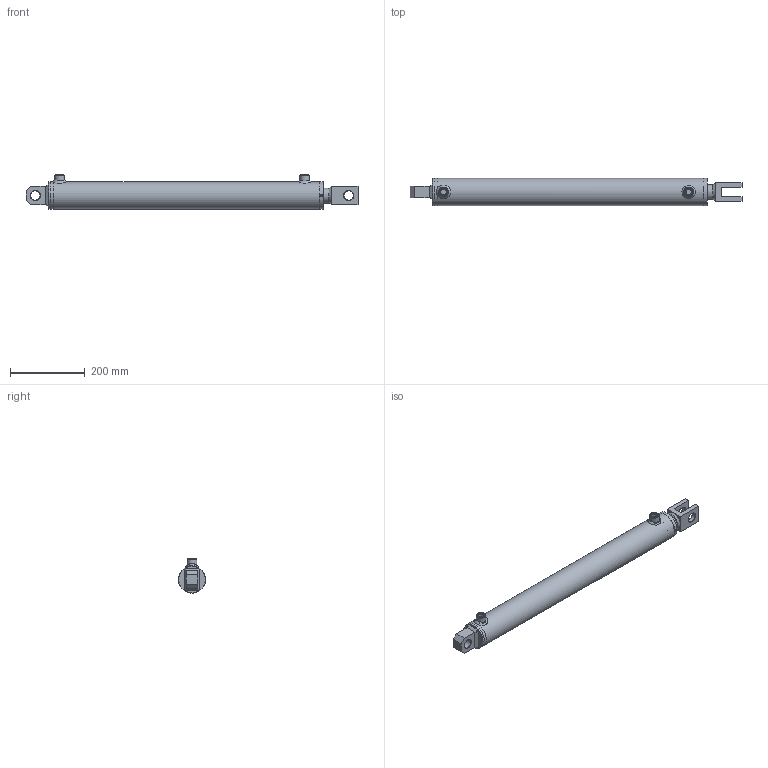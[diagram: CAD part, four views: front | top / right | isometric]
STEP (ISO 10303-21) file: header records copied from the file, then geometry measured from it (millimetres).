
FILE_DESCRIPTION( ( 'Unknown' ), '1' );
FILE_NAME( 'E:/LIBRERIA_3d/CILINDRI/HM5/HM5063400600.stp', 'Unknown', ( 'Unknown' ), ( 'Unknown' ), 'PSStep 17.0.49', 'Unknown', ' ' );
FILE_SCHEMA( ( 'AUTOMOTIVE_DESIGN { 1 0 10303 214 1 1 1 1 }' ) );
Length unit declared in the file: millimetre
Products named in the file (29): CG07306340; CT00063024; STL0630730600-oa4; Saldatura d'angolo 1-oa2; MAT_PRIMA_TUBO_FT07306300-oa3; CBSC220600; HM0063400600; Saldatura con preparazione 1-oa0; Saldatura d'angolo 1-oa1; CBS0600000; CF00063073; CDA0002420; APG0600000; SBL0400630600; Assem1; CSCS004010; COF2500000; CFS0000025; Saldatura con preparazione 1-oa5; Saldatura d'angolo 1-oa6; Saldatura d'angolo 2-oa7
Assembly tree (22 placements, depth 4):
  Saldatura d'angolo 1-oa2
  Saldatura d'angolo 1-oa2
  Saldatura d'angolo 1-oa1
  Saldatura d'angolo 1-oa1
  Assem1
    CSCS004010  x2
    COF2500000
    CFS0000025
    Saldatura con preparazione 1-oa5
    Saldatura con preparazione 1-oa5
    HM0063400600
      Saldatura con preparazione 1-oa0
      Saldatura con preparazione 1-oa0
      CBS0600000
      CF00063073
      CDA0002420
      APG0600000  x2
      SBL0400630600
      CG07306340
        CG07306340
      CT00063024
        CT00063024
      STL0630730600-oa4
        MAT_PRIMA_TUBO_FT07306300-oa3
        CBSC220600
Bounding box: 890 x 73 x 92 mm (x, y, z)
Volume: 2086452.3 mm3; surface area: 539237.6 mm2
Topology: 26 solids, 26 shells, 291 faces, 630 edges, 390 vertices
Faces by surface type: plane 98, cylinder 70, cone 49, torus 38, bspline 36
Full cylindrical faces by diameter (mm): 4.25 x3, 5 x2, 6 x2, 7 x2, 14.95 x2, 16 x2, 16.6 x2, 22 x2, 23.4 x1, 24 x5, 25.25 x3, 26 x2, 28.5 x1, 36 x1, 40 x8, 42 x1, 43 x1, 47 x1, 48 x1, 48.6 x1, 58 x1, 58.39 x2, 61.63 x2, 62.9 x1, 63 x1, 63.8 x1, 64 x1, 64.1 x1, 65 x4, 66.376 x1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
Entity records: 11992 total; most frequent: CARTESIAN_POINT 4814, DIRECTION 1032, ORIENTED_EDGE 762, EDGE_LOOP 472, AXIS2_PLACEMENT_3D 468, EDGE_CURVE 381, FACE_OUTER_BOUND 377, VERTEX_POINT 316
